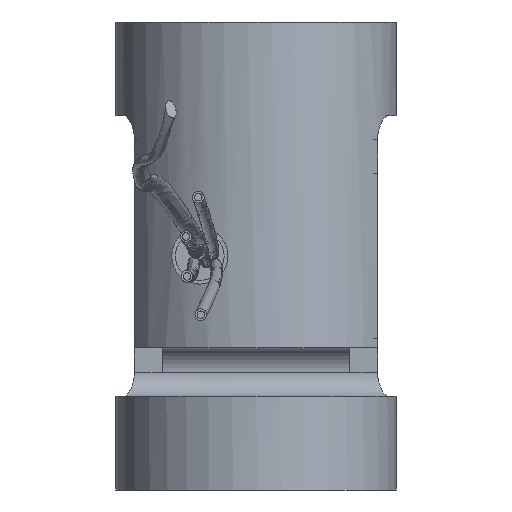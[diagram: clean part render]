
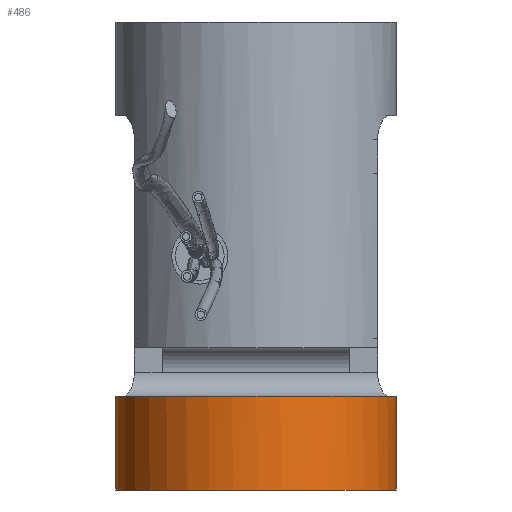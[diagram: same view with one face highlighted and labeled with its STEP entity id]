
A CAD part, front view. The second image highlights one B-rep face of the part: STEP entity #486.
In plain terms, the highlighted cylindrical face has radius 9.525 mm (diameter 19.05 mm), a full revolution.
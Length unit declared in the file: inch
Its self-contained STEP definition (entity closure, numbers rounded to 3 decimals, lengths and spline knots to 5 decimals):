
#17 = VECTOR ( 'NONE', #1639, 39.37008 ) ;
#35 = CARTESIAN_POINT ( 'NONE',  ( -0.32476, 0.1875, -0.31 ) ) ;
#133 = CARTESIAN_POINT ( 'NONE',  ( 0.32476, 0.1875, -0.31 ) ) ;
#150 = VECTOR ( 'NONE', #511, 39.37008 ) ;
#155 = CIRCLE ( 'NONE', #3789, 0.375 ) ;
#239 = CARTESIAN_POINT ( 'NONE',  ( 0.32476, 0.1875, 0.245 ) ) ;
#240 = ORIENTED_EDGE ( 'NONE', *, *, #336, .F. ) ;
#313 = CARTESIAN_POINT ( 'NONE',  ( -0.32608, 0.18521, -0.32768 ) ) ;
#335 = CARTESIAN_POINT ( 'NONE',  ( -0.32992, 0.17828, -0.34363 ) ) ;
#336 = EDGE_CURVE ( 'NONE', #2676, #2676, #155, .T. ) ;
#354 = CARTESIAN_POINT ( 'NONE',  ( 0.32476, 0.1875, -0.31 ) ) ;
#427 = FACE_OUTER_BOUND ( 'NONE', #3257, .T. ) ;
#452 = CARTESIAN_POINT ( 'NONE',  ( 0.35144, 0.1309, -0.37459 ) ) ;
#486 = ADVANCED_FACE ( 'NONE', ( #2252, #427 ), #3157, .T. ) ;
#511 = DIRECTION ( 'NONE',  ( 0., 0., 1. ) ) ;
#570 = CARTESIAN_POINT ( 'NONE',  ( 0., 0.375, -0.625 ) ) ;
#593 = ORIENTED_EDGE ( 'NONE', *, *, #3171, .T. ) ;
#664 = VERTEX_POINT ( 'NONE', #133 ) ;
#705 = DIRECTION ( 'NONE',  ( -1., 0., 0. ) ) ;
#792 = ORIENTED_EDGE ( 'NONE', *, *, #1400, .T. ) ;
#912 = EDGE_CURVE ( 'NONE', #1187, #3185, #2037, .T. ) ;
#1014 = DIRECTION ( 'NONE',  ( 0., 0., -1. ) ) ;
#1075 = CIRCLE ( 'NONE', #2656, 0.375 ) ;
#1077 = DIRECTION ( 'NONE',  ( 0., 0., -1. ) ) ;
#1187 = VERTEX_POINT ( 'NONE', #2374 ) ;
#1282 = EDGE_CURVE ( 'NONE', #2548, #664, #3399, .T. ) ;
#1356 = CARTESIAN_POINT ( 'NONE',  ( 0.33241, 0.17371, -0.35089 ) ) ;
#1386 = CIRCLE ( 'NONE', #3746, 0.375 ) ;
#1392 = CARTESIAN_POINT ( 'NONE',  ( 0.34829, 0.13906, -0.37299 ) ) ;
#1400 = EDGE_CURVE ( 'NONE', #664, #3077, #3030, .T. ) ;
#1456 = CARTESIAN_POINT ( 'NONE',  ( -0.32476, 0.1875, 0.3125 ) ) ;
#1458 = CARTESIAN_POINT ( 'NONE',  ( -0.34338, 0.15078, -0.36868 ) ) ;
#1483 = ORIENTED_EDGE ( 'NONE', *, *, #2308, .T. ) ;
#1536 = CARTESIAN_POINT ( 'NONE',  ( -0.32683, 0.18388, -0.33183 ) ) ;
#1556 = CARTESIAN_POINT ( 'NONE',  ( -0.33692, 0.16468, -0.35964 ) ) ;
#1635 = CARTESIAN_POINT ( 'NONE',  ( 0., 0., 0.3125 ) ) ;
#1639 = DIRECTION ( 'NONE',  ( 0., 0., -1. ) ) ;
#1660 = CARTESIAN_POINT ( 'NONE',  ( 0.33692, 0.16469, -0.35962 ) ) ;
#1782 = CARTESIAN_POINT ( 'NONE',  ( -0.33391, 0.17071, -0.35379 ) ) ;
#1895 = DIRECTION ( 'NONE',  ( -1., 0., 0. ) ) ;
#1975 = CARTESIAN_POINT ( 'NONE',  ( 0.32503, 0.18704, -0.31891 ) ) ;
#1984 = CARTESIAN_POINT ( 'NONE',  ( -0.34831, 0.13919, -0.37337 ) ) ;
#2011 = CARTESIAN_POINT ( 'NONE',  ( 0.35443, 0.1225, -0.375 ) ) ;
#2024 = EDGE_LOOP ( 'NONE', ( #2552, #792, #1483, #593, #2806, #3790 ) ) ;
#2037 = LINE ( 'NONE', #1456, #150 ) ;
#2114 = CARTESIAN_POINT ( 'NONE',  ( -0.32875, 0.18043, -0.33981 ) ) ;
#2136 = CARTESIAN_POINT ( 'NONE',  ( -0.35443, 0.1225, -0.375 ) ) ;
#2171 = AXIS2_PLACEMENT_3D ( 'NONE', #1635, #1014, #705 ) ;
#2252 = FACE_OUTER_BOUND ( 'NONE', #2024, .T. ) ;
#2280 = CARTESIAN_POINT ( 'NONE',  ( -0.35149, 0.131, -0.375 ) ) ;
#2308 = EDGE_CURVE ( 'NONE', #3077, #3263, #1386, .T. ) ;
#2374 = CARTESIAN_POINT ( 'NONE',  ( -0.32476, 0.1875, -0.31 ) ) ;
#2478 = EDGE_CURVE ( 'NONE', #3185, #2548, #1075, .T. ) ;
#2488 = CARTESIAN_POINT ( 'NONE',  ( 0.32476, 0.1875, 0.3125 ) ) ;
#2516 = B_SPLINE_CURVE_WITH_KNOTS ( 'NONE', 3,
 ( #2979, #2280, #1984, #1458, #2672, #3208, #1556, #1782, #3658, #335, #2114, #1536, #313, #3621, #2717, #35 ),
 .UNSPECIFIED., .F., .F.,
 ( 4, 2, 2, 2, 2, 2, 2, 4 ),
 ( 0., 0.00068, 0.00101, 0.00135, 0.00169, 0.00203, 0.00236, 0.0027 ),
 .UNSPECIFIED. ) ;
#2548 = VERTEX_POINT ( 'NONE', #239 ) ;
#2551 = DIRECTION ( 'NONE',  ( -1., 0., 0. ) ) ;
#2552 = ORIENTED_EDGE ( 'NONE', *, *, #1282, .T. ) ;
#2554 = CARTESIAN_POINT ( 'NONE',  ( 0.3297, 0.17872, -0.34376 ) ) ;
#2593 = CARTESIAN_POINT ( 'NONE',  ( 0.32476, 0.1875, -0.3145 ) ) ;
#2599 = CARTESIAN_POINT ( 'NONE',  ( 0., 0., -0.625 ) ) ;
#2656 = AXIS2_PLACEMENT_3D ( 'NONE', #3159, #1077, #2551 ) ;
#2672 = CARTESIAN_POINT ( 'NONE',  ( -0.34174, 0.15444, -0.36676 ) ) ;
#2676 = VERTEX_POINT ( 'NONE', #570 ) ;
#2717 = CARTESIAN_POINT ( 'NONE',  ( -0.32476, 0.1875, -0.31451 ) ) ;
#2806 = ORIENTED_EDGE ( 'NONE', *, *, #912, .T. ) ;
#2857 = CARTESIAN_POINT ( 'NONE',  ( 0.34175, 0.15443, -0.36677 ) ) ;
#2884 = CARTESIAN_POINT ( 'NONE',  ( 0.34338, 0.15077, -0.36868 ) ) ;
#2900 = CARTESIAN_POINT ( 'NONE',  ( 0.32605, 0.18524, -0.32754 ) ) ;
#2919 = CARTESIAN_POINT ( 'NONE',  ( 0.32683, 0.18389, -0.33181 ) ) ;
#2979 = CARTESIAN_POINT ( 'NONE',  ( -0.35443, 0.1225, -0.375 ) ) ;
#2993 = DIRECTION ( 'NONE',  ( 0., 1., 0. ) ) ;
#3030 = B_SPLINE_CURVE_WITH_KNOTS ( 'NONE', 3,
 ( #354, #2593, #1975, #2900, #2919, #2554, #1356, #1660, #3202, #2857, #2884, #3795, #1392, #452, #3811, #2011 ),
 .UNSPECIFIED., .F., .F.,
 ( 4, 2, 2, 2, 2, 2, 2, 4 ),
 ( 0., 0.00034, 0.00068, 0.00135, 0.00169, 0.00203, 0.00236, 0.0027 ),
 .UNSPECIFIED. ) ;
#3077 = VERTEX_POINT ( 'NONE', #3837 ) ;
#3157 = CYLINDRICAL_SURFACE ( 'NONE', #2171, 0.375 ) ;
#3159 = CARTESIAN_POINT ( 'NONE',  ( 0., 0., 0.245 ) ) ;
#3171 = EDGE_CURVE ( 'NONE', #3263, #1187, #2516, .T. ) ;
#3185 = VERTEX_POINT ( 'NONE', #3382 ) ;
#3202 = CARTESIAN_POINT ( 'NONE',  ( 0.33852, 0.16138, -0.36225 ) ) ;
#3208 = CARTESIAN_POINT ( 'NONE',  ( -0.33852, 0.16137, -0.36226 ) ) ;
#3257 = EDGE_LOOP ( 'NONE', ( #240 ) ) ;
#3263 = VERTEX_POINT ( 'NONE', #2136 ) ;
#3271 = DIRECTION ( 'NONE',  ( 0., 0., -1. ) ) ;
#3382 = CARTESIAN_POINT ( 'NONE',  ( -0.32476, 0.1875, 0.245 ) ) ;
#3399 = LINE ( 'NONE', #2488, #17 ) ;
#3417 = DIRECTION ( 'NONE',  ( 0., 0., -1. ) ) ;
#3621 = CARTESIAN_POINT ( 'NONE',  ( -0.32504, 0.18702, -0.31903 ) ) ;
#3658 = CARTESIAN_POINT ( 'NONE',  ( -0.33249, 0.17344, -0.3506 ) ) ;
#3713 = CARTESIAN_POINT ( 'NONE',  ( 0., 0., -0.375 ) ) ;
#3746 = AXIS2_PLACEMENT_3D ( 'NONE', #3713, #3417, #1895 ) ;
#3789 = AXIS2_PLACEMENT_3D ( 'NONE', #2599, #3271, #2993 ) ;
#3790 = ORIENTED_EDGE ( 'NONE', *, *, #2478, .T. ) ;
#3795 = CARTESIAN_POINT ( 'NONE',  ( 0.34665, 0.14309, -0.37179 ) ) ;
#3811 = CARTESIAN_POINT ( 'NONE',  ( 0.35296, 0.12675, -0.375 ) ) ;
#3837 = CARTESIAN_POINT ( 'NONE',  ( 0.35443, 0.1225, -0.375 ) ) ;
